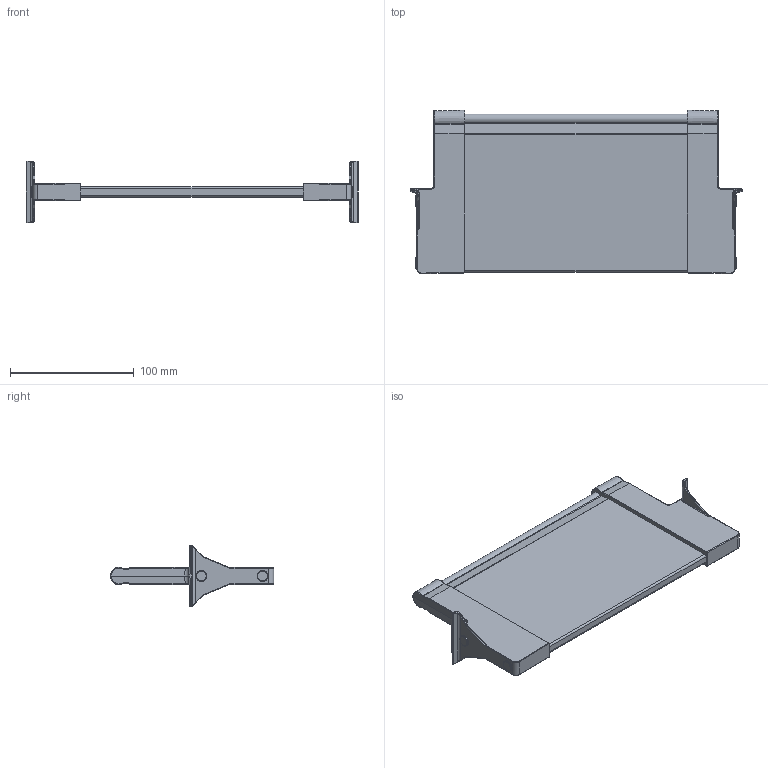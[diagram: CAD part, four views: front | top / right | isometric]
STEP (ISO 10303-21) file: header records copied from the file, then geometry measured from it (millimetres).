
FILE_DESCRIPTION (( 'STEP AP214' ), '1' );
FILE_NAME ('Nova-Pro P622 Querteiler H90Nova PRO Querteiler_H90_KAB 350_16.step', '2009-11-06T06:59:17', ( 'Waldinger Reinhard' ), ( 'Grass GmbH' ), 'SwSTEP 2.0', 'SolidWorks 2009', '' );
FILE_SCHEMA (( 'AUTOMOTIVE_DESIGN' ));
Length unit declared in the file: millimetre
Products named in the file (1): Nova-Pro P622 Querteiler H90Nova PRO Querteiler_H90_KAB 350_16
Bounding box: 268.1 x 132 x 49.97 mm (x, y, z)
Volume: 299690.7 mm3; surface area: 74683.7 mm2
Topology: 1 solids, 1 shells, 248 faces, 578 edges, 334 vertices
Faces by surface type: cylinder 107, bspline 64, plane 51, torus 12, sphere 12, cone 2
Entity records: 11002 total; most frequent: CARTESIAN_POINT 5879, ORIENTED_EDGE 1148, DIRECTION 966, EDGE_CURVE 574, AXIS2_PLACEMENT_3D 369, VERTEX_POINT 334, EDGE_LOOP 254, ADVANCED_FACE 248
